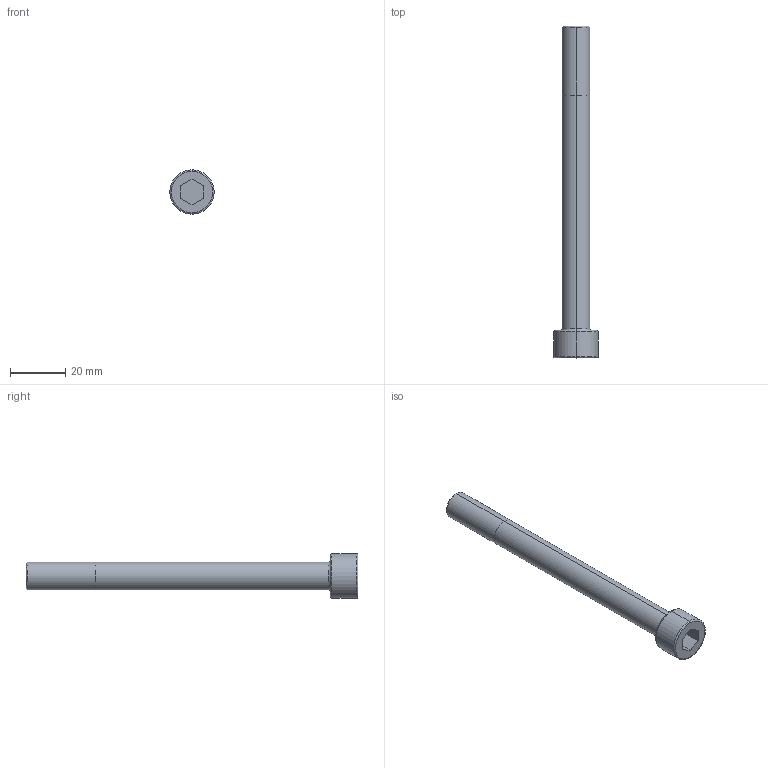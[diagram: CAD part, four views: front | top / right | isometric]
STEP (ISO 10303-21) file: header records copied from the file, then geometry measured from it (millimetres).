
FILE_DESCRIPTION (( 'STEP AP214' ), '1' );
FILE_NAME ('M_10X110.STEP', '2016-03-08T00:40:14', ( '' ), ( '' ), 'SwSTEP 2.0', 'SolidWorks 2014', '' );
FILE_SCHEMA (( 'AUTOMOTIVE_DESIGN' ));
Length unit declared in the file: millimetre
Products named in the file (1): M_10X110
Bounding box: 16 x 120 x 16 mm (x, y, z)
Volume: 10200.5 mm3; surface area: 4544.5 mm2
Topology: 1 solids, 1 shells, 25 faces, 52 edges, 32 vertices
Faces by surface type: plane 11, torus 6, cylinder 6, cone 2
Entity records: 746 total; most frequent: DIRECTION 130, CARTESIAN_POINT 110, ORIENTED_EDGE 104, AXIS2_PLACEMENT_3D 52, EDGE_CURVE 52, VERTEX_POINT 32, EDGE_LOOP 28, CIRCLE 26
